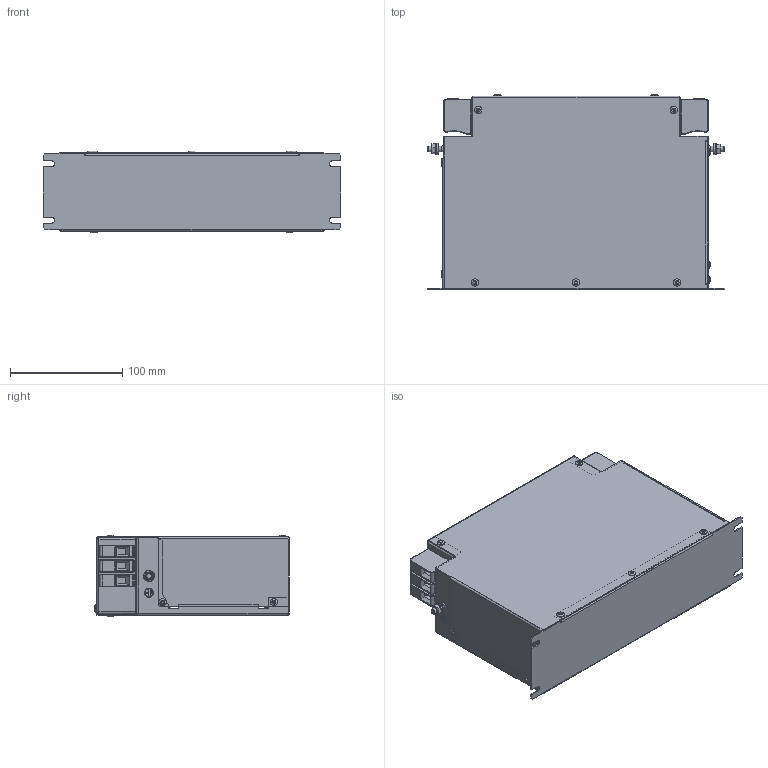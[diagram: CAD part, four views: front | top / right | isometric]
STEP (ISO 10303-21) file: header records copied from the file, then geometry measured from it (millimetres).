
FILE_DESCRIPTION(/* description */ ('raw material description'),/* implementation_level */ '2;1');
FILE_NAME(/* name */ 'C:\Users\Orhan.Eker\Desktop\FS3840-25-33.stp',/* time_stamp */ '2020-02-20T13:02:36+01:00',/* author */ ('orhan.eker'),/* organization */ ('Schaffner EMV AG'),/* preprocessor_version */ 'ST-DEVELOPER v16.5',/* originating_system */ 'Autodesk Inventor 2017',/* authorisation */ '');
FILE_SCHEMA (('AUTOMOTIVE_DESIGN { 1 0 10303 214 3 1 1 }'));
Length unit declared in the file: millimetre
Products named in the file (1): Part1
Bounding box: 265 x 173.4 x 72.8 mm (x, y, z)
Volume: 190947 mm3; surface area: 298613.5 mm2
Topology: 1 solids, 7 shells, 1718 faces, 4027 edges, 2398 vertices
Faces by surface type: plane 970, cylinder 477, torus 98, sphere 72, bspline 53, cone 48
Full cylindrical faces by diameter (mm): 1.78 x4, 2 x14, 2.4 x4, 3.2 x22, 3.3 x13, 3.4 x14, 3.5 x18, 4 x2, 5 x4, 5.1 x6, 5.2 x14, 5.3 x2, 5.5 x4, 6.5 x14, 7 x6, 7.3 x2, 8 x2, 9.9 x2, 10 x8
Entity records: 49718 total; most frequent: CARTESIAN_POINT 9650, DIRECTION 8057, ORIENTED_EDGE 7444, EDGE_CURVE 3715, AXIS2_PLACEMENT_3D 2796, LINE 2465, VECTOR 2465, VERTEX_POINT 2375
